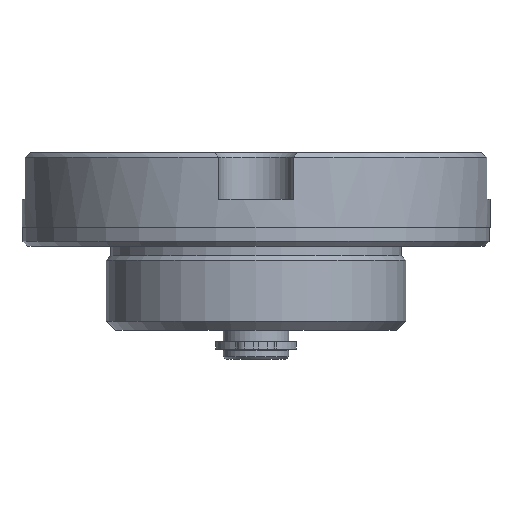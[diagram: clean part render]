
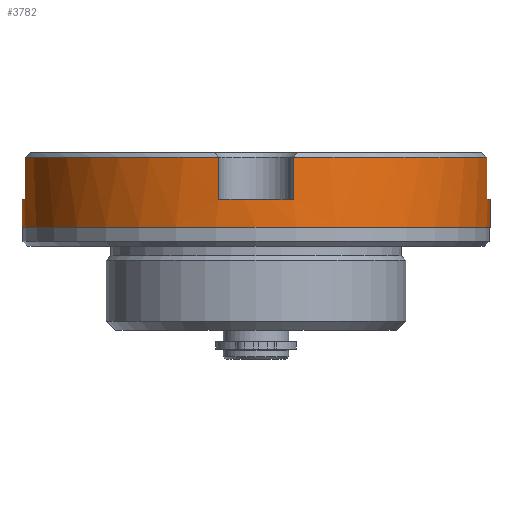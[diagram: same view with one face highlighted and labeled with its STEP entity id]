
A CAD part, front view. The second image highlights one B-rep face of the part: STEP entity #3782.
In plain terms, the highlighted cylindrical face has radius 25 mm (diameter 50 mm), a partial arc.
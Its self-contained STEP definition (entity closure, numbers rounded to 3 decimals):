
#58 = AXIS2_PLACEMENT_3D ( 'NONE', #776, #4452, #1877 ) ;
#117 = DIRECTION ( 'NONE',  ( 0., 0., -1. ) ) ;
#122 = EDGE_CURVE ( 'NONE', #206, #4633, #3944, .T. ) ;
#159 = CARTESIAN_POINT ( 'NONE',  ( 0., 0., 5. ) ) ;
#206 = VERTEX_POINT ( 'NONE', #1224 ) ;
#284 = CIRCLE ( 'NONE', #4510, 25. ) ;
#459 = CARTESIAN_POINT ( 'NONE',  ( -25., 0., 0. ) ) ;
#494 = ORIENTED_EDGE ( 'NONE', *, *, #4671, .F. ) ;
#565 = VECTOR ( 'NONE', #4738, 1000. ) ;
#588 = EDGE_CURVE ( 'NONE', #3240, #2293, #4238, .T. ) ;
#625 = CARTESIAN_POINT ( 'NONE',  ( -24.678, -4., 5. ) ) ;
#701 = LINE ( 'NONE', #4743, #753 ) ;
#724 = CYLINDRICAL_SURFACE ( 'NONE', #58, 25. ) ;
#753 = VECTOR ( 'NONE', #1735, 1000. ) ;
#754 = FACE_OUTER_BOUND ( 'NONE', #3869, .T. ) ;
#776 = CARTESIAN_POINT ( 'NONE',  ( 0., 0., 0. ) ) ;
#809 = ORIENTED_EDGE ( 'NONE', *, *, #122, .F. ) ;
#844 = ORIENTED_EDGE ( 'NONE', *, *, #853, .F. ) ;
#853 = EDGE_CURVE ( 'NONE', #2752, #3882, #4398, .T. ) ;
#902 = CARTESIAN_POINT ( 'NONE',  ( 0., 0., 9.5 ) ) ;
#920 = CARTESIAN_POINT ( 'NONE',  ( 4., -24.678, 9.5 ) ) ;
#974 = CARTESIAN_POINT ( 'NONE',  ( 0., 0., 5. ) ) ;
#981 = VECTOR ( 'NONE', #1926, 1000. ) ;
#990 = ORIENTED_EDGE ( 'NONE', *, *, #4170, .T. ) ;
#1042 = DIRECTION ( 'NONE',  ( 0., 0., -1. ) ) ;
#1054 = CIRCLE ( 'NONE', #2203, 25. ) ;
#1137 = CARTESIAN_POINT ( 'NONE',  ( -24.678, -4., 5. ) ) ;
#1224 = CARTESIAN_POINT ( 'NONE',  ( 24.678, -4., 5. ) ) ;
#1248 = CARTESIAN_POINT ( 'NONE',  ( 0., 0., 2. ) ) ;
#1293 = CARTESIAN_POINT ( 'NONE',  ( 24.678, -4., 9.5 ) ) ;
#1297 = EDGE_CURVE ( 'NONE', #3882, #1800, #4033, .T. ) ;
#1327 = EDGE_CURVE ( 'NONE', #4633, #1440, #3642, .T. ) ;
#1364 = AXIS2_PLACEMENT_3D ( 'NONE', #2143, #1042, #2502 ) ;
#1440 = VERTEX_POINT ( 'NONE', #4236 ) ;
#1477 = CARTESIAN_POINT ( 'NONE',  ( 24.678, -4., 5. ) ) ;
#1528 = DIRECTION ( 'NONE',  ( 1., 0., 0. ) ) ;
#1619 = DIRECTION ( 'NONE',  ( 0., 0., 1. ) ) ;
#1712 = CARTESIAN_POINT ( 'NONE',  ( 25., 0., 5. ) ) ;
#1735 = DIRECTION ( 'NONE',  ( 0., 0., 1. ) ) ;
#1788 = AXIS2_PLACEMENT_3D ( 'NONE', #902, #3025, #3771 ) ;
#1800 = VERTEX_POINT ( 'NONE', #4213 ) ;
#1856 = LINE ( 'NONE', #1477, #3268 ) ;
#1871 = VERTEX_POINT ( 'NONE', #2678 ) ;
#1877 = DIRECTION ( 'NONE',  ( -1., 0., 0. ) ) ;
#1926 = DIRECTION ( 'NONE',  ( 0., 0., -1. ) ) ;
#2032 = ORIENTED_EDGE ( 'NONE', *, *, #3965, .T. ) ;
#2143 = CARTESIAN_POINT ( 'NONE',  ( 0., 0., 9.5 ) ) ;
#2203 = AXIS2_PLACEMENT_3D ( 'NONE', #974, #3501, #4235 ) ;
#2206 = EDGE_CURVE ( 'NONE', #2730, #1871, #4380, .T. ) ;
#2239 = CARTESIAN_POINT ( 'NONE',  ( 4., -24.678, 5. ) ) ;
#2265 = VECTOR ( 'NONE', #3652, 1000. ) ;
#2293 = VERTEX_POINT ( 'NONE', #920 ) ;
#2315 = DIRECTION ( 'NONE',  ( -1., 0., 0. ) ) ;
#2502 = DIRECTION ( 'NONE',  ( 1., 0., 0. ) ) ;
#2603 = CARTESIAN_POINT ( 'NONE',  ( -4., -24.678, 5. ) ) ;
#2678 = CARTESIAN_POINT ( 'NONE',  ( -4., -24.678, 9.5 ) ) ;
#2730 = VERTEX_POINT ( 'NONE', #4076 ) ;
#2752 = VERTEX_POINT ( 'NONE', #4540 ) ;
#2822 = VERTEX_POINT ( 'NONE', #3461 ) ;
#3018 = LINE ( 'NONE', #459, #981 ) ;
#3025 = DIRECTION ( 'NONE',  ( 0., 0., -1. ) ) ;
#3158 = VECTOR ( 'NONE', #3207, 1000. ) ;
#3207 = DIRECTION ( 'NONE',  ( 0., 0., 1. ) ) ;
#3240 = VERTEX_POINT ( 'NONE', #1293 ) ;
#3256 = CARTESIAN_POINT ( 'NONE',  ( 25., 0., 0. ) ) ;
#3265 = ORIENTED_EDGE ( 'NONE', *, *, #588, .T. ) ;
#3268 = VECTOR ( 'NONE', #3949, 1000. ) ;
#3337 = DIRECTION ( 'NONE',  ( 0., 0., 1. ) ) ;
#3426 = EDGE_CURVE ( 'NONE', #206, #3240, #1856, .T. ) ;
#3427 = VERTEX_POINT ( 'NONE', #2239 ) ;
#3461 = CARTESIAN_POINT ( 'NONE',  ( -25., 0., 2. ) ) ;
#3501 = DIRECTION ( 'NONE',  ( 0., 0., 1. ) ) ;
#3521 = DIRECTION ( 'NONE',  ( -1., 0., 0. ) ) ;
#3609 = ORIENTED_EDGE ( 'NONE', *, *, #4631, .F. ) ;
#3642 = LINE ( 'NONE', #3256, #565 ) ;
#3652 = DIRECTION ( 'NONE',  ( 0., 0., 1. ) ) ;
#3660 = ORIENTED_EDGE ( 'NONE', *, *, #1297, .F. ) ;
#3673 = ORIENTED_EDGE ( 'NONE', *, *, #3885, .F. ) ;
#3696 = CARTESIAN_POINT ( 'NONE',  ( 0., 0., 5. ) ) ;
#3703 = AXIS2_PLACEMENT_3D ( 'NONE', #159, #1619, #2315 ) ;
#3770 = ORIENTED_EDGE ( 'NONE', *, *, #3426, .T. ) ;
#3771 = DIRECTION ( 'NONE',  ( 1., 0., 0. ) ) ;
#3782 = ADVANCED_FACE ( 'NONE', ( #754 ), #724, .T. ) ;
#3869 = EDGE_LOOP ( 'NONE', ( #4110, #809, #3770, #3265, #3673, #3609, #4469, #2032, #3660, #844, #990, #494 ) ) ;
#3882 = VERTEX_POINT ( 'NONE', #625 ) ;
#3885 = EDGE_CURVE ( 'NONE', #3427, #2293, #701, .T. ) ;
#3930 = AXIS2_PLACEMENT_3D ( 'NONE', #3696, #3337, #1528 ) ;
#3944 = CIRCLE ( 'NONE', #3703, 25. ) ;
#3949 = DIRECTION ( 'NONE',  ( 0., 0., 1. ) ) ;
#3965 = EDGE_CURVE ( 'NONE', #1871, #1800, #4590, .T. ) ;
#4033 = LINE ( 'NONE', #1137, #3158 ) ;
#4076 = CARTESIAN_POINT ( 'NONE',  ( -4., -24.678, 5. ) ) ;
#4110 = ORIENTED_EDGE ( 'NONE', *, *, #1327, .F. ) ;
#4170 = EDGE_CURVE ( 'NONE', #2752, #2822, #3018, .T. ) ;
#4213 = CARTESIAN_POINT ( 'NONE',  ( -24.678, -4., 9.5 ) ) ;
#4235 = DIRECTION ( 'NONE',  ( 0., 1., 0. ) ) ;
#4236 = CARTESIAN_POINT ( 'NONE',  ( 25., 0., 2. ) ) ;
#4238 = CIRCLE ( 'NONE', #1788, 25. ) ;
#4380 = LINE ( 'NONE', #2603, #2265 ) ;
#4398 = CIRCLE ( 'NONE', #3930, 25. ) ;
#4452 = DIRECTION ( 'NONE',  ( 0., 0., -1. ) ) ;
#4469 = ORIENTED_EDGE ( 'NONE', *, *, #2206, .T. ) ;
#4510 = AXIS2_PLACEMENT_3D ( 'NONE', #1248, #117, #3521 ) ;
#4540 = CARTESIAN_POINT ( 'NONE',  ( -25., 0., 5. ) ) ;
#4590 = CIRCLE ( 'NONE', #1364, 25. ) ;
#4631 = EDGE_CURVE ( 'NONE', #2730, #3427, #1054, .T. ) ;
#4633 = VERTEX_POINT ( 'NONE', #1712 ) ;
#4671 = EDGE_CURVE ( 'NONE', #1440, #2822, #284, .T. ) ;
#4738 = DIRECTION ( 'NONE',  ( 0., 0., -1. ) ) ;
#4743 = CARTESIAN_POINT ( 'NONE',  ( 4., -24.678, 5. ) ) ;
